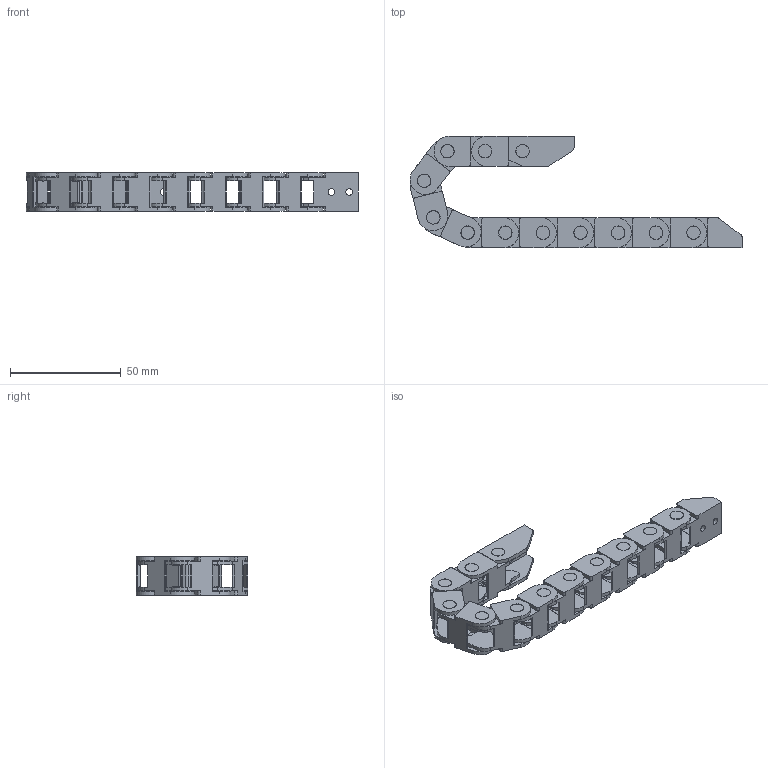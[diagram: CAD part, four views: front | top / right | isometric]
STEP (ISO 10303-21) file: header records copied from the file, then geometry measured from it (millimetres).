
FILE_DESCRIPTION((''),'2;1');
FILE_NAME('10X10-R18_ASM','2022-05-09T16:39:30',('admin'),(''),'CREO PARAMETRIC BY PTC INC, 2021164','CREO PARAMETRIC BY PTC INC, 2021164','');
FILE_SCHEMA(('CONFIG_CONTROL_DESIGN','GEOMETRIC_VALIDATION_PROPERTIES_MIM'));
Length unit declared in the file: millimetre
Products named in the file (4): 10X10R18; 10X10R18-LTT-1; 10X10R18-LTT-2; 10X10-R18_ASM
Assembly tree (13 placements, depth 2):
  10X10-R18_ASM
    10X10R18  x11
    10X10R18-LTT-1
    10X10R18-LTT-2
Bounding box: 149.95 x 50.41 x 18 mm (x, y, z)
Volume: 22458.8 mm3; surface area: 30086.4 mm2
Topology: 13 solids, 13 shells, 1221 faces, 3491 edges, 2254 vertices
Faces by surface type: plane 576, cylinder 509, bspline 88, sphere 44, cone 4
Entity records: 7313 total; most frequent: CARTESIAN_POINT 1925, ORIENTED_EDGE 1014, DIRECTION 997, EDGE_CURVE 507, VECTOR 337, LINE 337, VERTEX_POINT 334, AXIS2_PLACEMENT_3D 330
